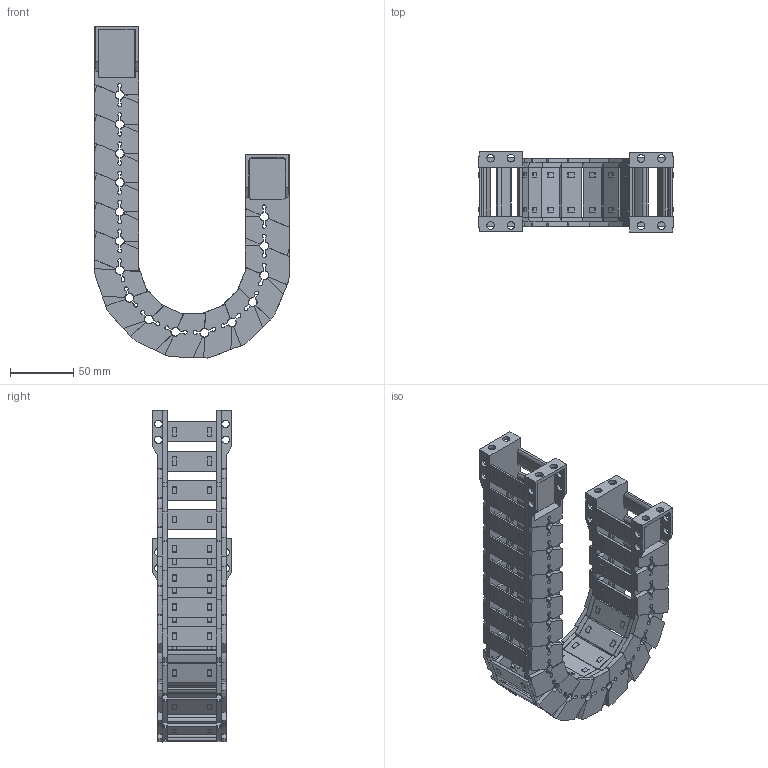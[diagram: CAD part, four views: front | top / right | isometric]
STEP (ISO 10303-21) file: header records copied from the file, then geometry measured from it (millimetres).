
FILE_DESCRIPTION(/* description */ (''),/* implementation_level */ '2;1');
FILE_NAME(/* name */ 'JY28-38-R55.stp',/* time_stamp */ '2026-06-03T13:53:06+08:00',/* author */ (''),/* organization */ (''),/* preprocessor_version */ 'ST-DEVELOPER v19.4',/* originating_system */ 'SIEMENS PLM Software NX2306.5001',/* authorisation */ '');
FILE_SCHEMA (('AP203_CONFIGURATION_CONTROLLED_3D_DESIGN_OF_MECHANICAL_PARTS_AND_ASSEMBLIES_MIM_LF { 1 0 10303 403 2 1 2}'));
Products named in the file (1): _model1_objects
Bounding box: 153.11 x 63 x 261.45 mm (x, y, z)
Volume: 259921.1 mm3; surface area: 174142.3 mm2
Topology: 18 solids, 18 shells, 3920 faces, 10964 edges, 7130 vertices
Faces by surface type: plane 2177, cone 940, cylinder 741, bspline 60, torus 2
Full cylindrical faces by diameter (mm): 6 x24
Entity records: 135289 total; most frequent: CARTESIAN_POINT 33855, ORIENTED_EDGE 21836, DIRECTION 20876, EDGE_CURVE 10918, AXIS2_PLACEMENT_3D 7349, VERTEX_POINT 7108, LINE 6178, VECTOR 6178
